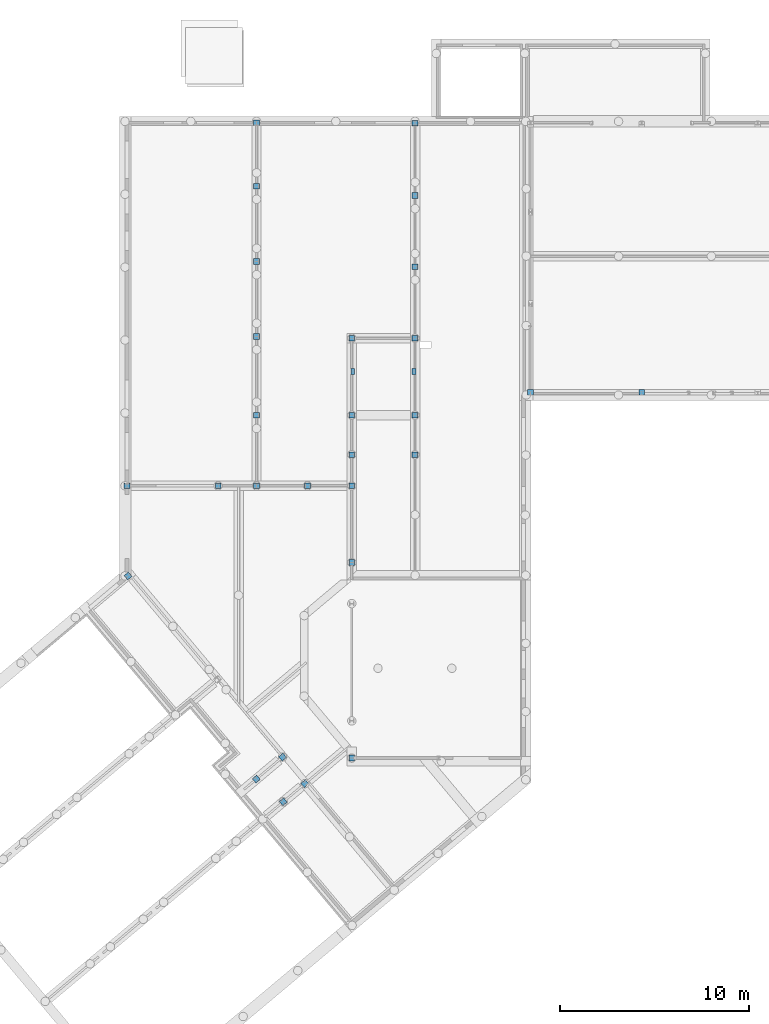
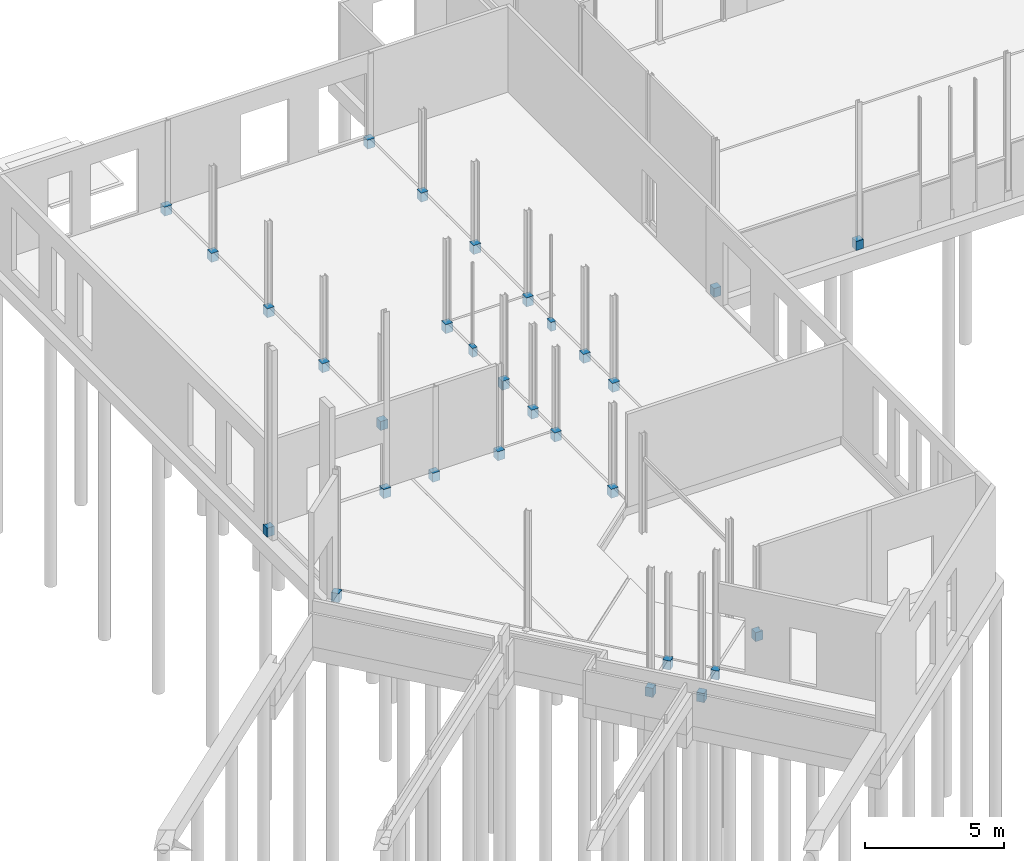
# One storey, part 9 of 18: 30 columns.
"""IFC2X3 building model written with IfcOpenShell, lengths in millimetres."""

from ifc_helpers import new_model, entity, si_unit, converted_unit, derived_unit, direction, frame, frame_2d, origin, origin_2d_with_axis, place, context, subcontext, project, spatial, polyline, rectangle, outline, extrude, source, transform, mapped, material, type_object, type_shapes, element, save


model = new_model("IFC2X3")

# Units and contexts
model_context = context("Model", 3, precision=0.01, world=origin(), true_north=direction((6.12303176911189e-17, 1.0)))
body_context = subcontext(model_context, "Body", "Model", "MODEL_VIEW")
ifc_project = project(units=[si_unit("LENGTHUNIT", "METRE", prefix="MILLI"), si_unit("AREAUNIT", "SQUARE_METRE"), si_unit("VOLUMEUNIT", "CUBIC_METRE"), converted_unit("PLANEANGLEUNIT", "DEGREE", entity("IfcRatioMeasure", 0.0174532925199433), si_unit("PLANEANGLEUNIT", "RADIAN"), dimensions=[0, 0, 0, 0, 0, 0, 0]), si_unit("MASSUNIT", "GRAM", prefix="KILO"), derived_unit("MASSDENSITYUNIT", [(si_unit("MASSUNIT", "GRAM", prefix="KILO"), 1), (si_unit("LENGTHUNIT", "METRE"), -3)]), derived_unit("MOMENTOFINERTIAUNIT", [(si_unit("LENGTHUNIT", "METRE"), 4)]), si_unit("TIMEUNIT", "SECOND"), si_unit("FREQUENCYUNIT", "HERTZ"), si_unit("THERMODYNAMICTEMPERATUREUNIT", "DEGREE_CELSIUS"), derived_unit("THERMALTRANSMITTANCEUNIT", [(si_unit("MASSUNIT", "GRAM", prefix="KILO"), 1), (si_unit("THERMODYNAMICTEMPERATUREUNIT", "KELVIN"), -1), (si_unit("TIMEUNIT", "SECOND"), -3)]), derived_unit("VOLUMETRICFLOWRATEUNIT", [(si_unit("LENGTHUNIT", "METRE"), 3), (si_unit("TIMEUNIT", "SECOND"), -1)]), si_unit("ELECTRICCURRENTUNIT", "AMPERE"), si_unit("ELECTRICVOLTAGEUNIT", "VOLT"), si_unit("POWERUNIT", "WATT"), si_unit("FORCEUNIT", "NEWTON", prefix="KILO"), si_unit("ILLUMINANCEUNIT", "LUX"), si_unit("LUMINOUSFLUXUNIT", "LUMEN"), si_unit("LUMINOUSINTENSITYUNIT", "CANDELA"), derived_unit("USERDEFINED", [(si_unit("MASSUNIT", "GRAM", prefix="KILO"), -1), (si_unit("LENGTHUNIT", "METRE"), -2), (si_unit("TIMEUNIT", "SECOND"), 3), (si_unit("LUMINOUSFLUXUNIT", "LUMEN"), 1)]), derived_unit("LINEARVELOCITYUNIT", [(si_unit("LENGTHUNIT", "METRE"), 1), (si_unit("TIMEUNIT", "SECOND"), -1)]), si_unit("PRESSUREUNIT", "PASCAL"), derived_unit("USERDEFINED", [(si_unit("LENGTHUNIT", "METRE"), -2), (si_unit("MASSUNIT", "GRAM", prefix="KILO"), 1), (si_unit("TIMEUNIT", "SECOND"), -2)]), derived_unit("LINEARFORCEUNIT", [(si_unit("MASSUNIT", "GRAM", prefix="KILO"), 1), (si_unit("LENGTHUNIT", "METRE"), 1), (si_unit("TIMEUNIT", "SECOND"), -2), (si_unit("LENGTHUNIT", "METRE"), -1)]), derived_unit("PLANARFORCEUNIT", [(si_unit("MASSUNIT", "GRAM", prefix="KILO"), 1), (si_unit("LENGTHUNIT", "METRE"), 1), (si_unit("TIMEUNIT", "SECOND"), -2), (si_unit("LENGTHUNIT", "METRE"), -2)])], contexts=[model_context])

# Site, building, storey
site_placement = place(None, origin())
site = spatial("IfcSite", under=ifc_project, at=site_placement, Name="Default", CompositionType="ELEMENT")
building_placement = place(site_placement, origin())
building = spatial("IfcBuilding", under=site, at=building_placement, CompositionType="ELEMENT")
storey_placement = place(building_placement, frame((0.0, 0.0, -1085.0)))
storey = spatial("IfcBuildingStorey", under=building, at=storey_placement, Name="-00 fundatie", CompositionType="ELEMENT", Elevation=-1085.0)

# Columns
ifc_material_1 = material(Name="f2_beton")
column_type_1 = type_object("IfcColumnType", Name="BERSnl_28_SCO_TLB_kolom vierkant beton_gen_ISR:300x300", PredefinedType="COLUMN", material=ifc_material_1)
shared_shape_1 = source(origin(), body_context, "Body", "SweptSolid", [
    extrude(rectangle(XDim=300.000000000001, YDim=300.000000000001, at=origin_2d_with_axis()), frame((20569.4349765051, 35415.9488747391, -485.0), z_axis=(0.0, 0.0, 1.0), x_axis=(0.0, -1.0, 0.0)), (0.0, 0.0, 1.0), 395.0),
])
type_shapes(column_type_1, [shared_shape_1])
column_1_placement = place(storey_placement, frame((0.0, 0.0, 1085.0)))
element("IfcColumn", 1, at=column_1_placement, inside=storey, type_object=column_type_1, Name="BERSnl_28_SCO_TLB_kolom vierkant beton_gen_ISR:300x300", ObjectType="BERSnl_28_SCO_TLB_kolom vierkant beton_gen_ISR:300x300", context=body_context, shape_type="MappedRepresentation", body=[
    mapped(shared_shape_1, transform((0.0, 0.0, 0.0), scale=1.0)),
])
column_type_2 = type_object("IfcColumnType", Name="BERSnl_28_SCO_TLB_kolom vierkant beton_gen_ISR:300x300", PredefinedType="COLUMN", material=ifc_material_1)
shared_shape_2 = source(origin(), body_context, "Body", "SweptSolid", [
    extrude(rectangle(XDim=300.000000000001, YDim=300.000000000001, at=origin_2d_with_axis()), frame((20569.4349765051, 32067.2966282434, -485.0), z_axis=(0.0, 0.0, 1.0), x_axis=(0.0, -1.0, 0.0)), (0.0, 0.0, 1.0), 395.0),
])
type_shapes(column_type_2, [shared_shape_2])
column_2_placement = place(storey_placement, frame((0.0, 0.0, 1085.0)))
element("IfcColumn", 2, at=column_2_placement, inside=storey, type_object=column_type_2, Name="BERSnl_28_SCO_TLB_kolom vierkant beton_gen_ISR:300x300", ObjectType="BERSnl_28_SCO_TLB_kolom vierkant beton_gen_ISR:300x300", context=body_context, shape_type="MappedRepresentation", body=[
    mapped(shared_shape_2, transform((0.0, 0.0, 0.0), scale=1.0)),
])
column_type_3 = type_object("IfcColumnType", Name="BERSnl_28_SCO_TLB_kolom vierkant beton_gen_ISR:300x300", PredefinedType="COLUMN", material=ifc_material_1)
shared_shape_3 = source(origin(), body_context, "Body", "SweptSolid", [
    extrude(rectangle(XDim=300.000000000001, YDim=300.000000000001, at=origin_2d_with_axis()), frame((20569.4349765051, 28067.2966282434, -485.0), z_axis=(0.0, 0.0, 1.0), x_axis=(0.0, -1.0, 0.0)), (0.0, 0.0, 1.0), 395.0),
])
type_shapes(column_type_3, [shared_shape_3])
column_3_placement = place(storey_placement, frame((0.0, 0.0, 1085.0)))
element("IfcColumn", 3, at=column_3_placement, inside=storey, type_object=column_type_3, Name="BERSnl_28_SCO_TLB_kolom vierkant beton_gen_ISR:300x300", ObjectType="BERSnl_28_SCO_TLB_kolom vierkant beton_gen_ISR:300x300", context=body_context, shape_type="MappedRepresentation", body=[
    mapped(shared_shape_3, transform((0.0, 0.0, 0.0), scale=1.0)),
])
column_type_4 = type_object("IfcColumnType", Name="BERSnl_28_SCO_TLB_kolom vierkant beton_gen_ISR:300x300", PredefinedType="COLUMN", material=ifc_material_1)
shared_shape_4 = source(origin(), body_context, "Body", "SweptSolid", [
    extrude(rectangle(XDim=300.000000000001, YDim=300.000000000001, at=origin_2d_with_axis()), frame((20569.4349765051, 24097.2966282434, -485.0), z_axis=(0.0, 0.0, 1.0), x_axis=(0.0, -1.0, 0.0)), (0.0, 0.0, 1.0), 395.0),
])
type_shapes(column_type_4, [shared_shape_4])
column_4_placement = place(storey_placement, frame((0.0, 0.0, 1085.0)))
element("IfcColumn", 4, at=column_4_placement, inside=storey, type_object=column_type_4, Name="BERSnl_28_SCO_TLB_kolom vierkant beton_gen_ISR:300x300", ObjectType="BERSnl_28_SCO_TLB_kolom vierkant beton_gen_ISR:300x300", context=body_context, shape_type="MappedRepresentation", body=[
    mapped(shared_shape_4, transform((0.0, 0.0, 0.0), scale=1.0)),
])
column_type_5 = type_object("IfcColumnType", Name="BERSnl_28_SCO_TLB_kolom vierkant beton_gen_ISR:300x300", PredefinedType="COLUMN", material=ifc_material_1)
shared_shape_5 = source(origin(), body_context, "Body", "SweptSolid", [
    extrude(rectangle(XDim=300.000000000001, YDim=300.000000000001, at=origin_2d_with_axis()), frame((20569.4349765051, 19921.8399254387, -485.0), z_axis=(0.0, 0.0, 1.0), x_axis=(0.0, -1.0, 0.0)), (0.0, 0.0, 1.0), 395.0),
])
type_shapes(column_type_5, [shared_shape_5])
column_5_placement = place(storey_placement, frame((0.0, 0.0, 1085.0)))
element("IfcColumn", 5, at=column_5_placement, inside=storey, type_object=column_type_5, Name="BERSnl_28_SCO_TLB_kolom vierkant beton_gen_ISR:300x300", ObjectType="BERSnl_28_SCO_TLB_kolom vierkant beton_gen_ISR:300x300", context=body_context, shape_type="MappedRepresentation", body=[
    mapped(shared_shape_5, transform((0.0, 0.0, 0.0), scale=1.0)),
])
column_type_6 = type_object("IfcColumnType", Name="BERSnl_28_SCO_TLB_kolom vierkant beton_gen_ISR:300x300", PredefinedType="COLUMN", material=ifc_material_1)
shared_shape_6 = source(origin(), body_context, "Body", "SweptSolid", [
    extrude(rectangle(XDim=299.999999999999, YDim=300.000000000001, at=origin_2d_with_axis()), frame((20569.4349765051, 16182.2966282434, -485.0), z_axis=(0.0, 0.0, 1.0), x_axis=(0.0, -1.0, 0.0)), (0.0, 0.0, 1.0), 395.0),
])
type_shapes(column_type_6, [shared_shape_6])
column_6_placement = place(storey_placement, frame((0.0, 0.0, 1085.0)))
element("IfcColumn", 6, at=column_6_placement, inside=storey, type_object=column_type_6, Name="BERSnl_28_SCO_TLB_kolom vierkant beton_gen_ISR:300x300", ObjectType="BERSnl_28_SCO_TLB_kolom vierkant beton_gen_ISR:300x300", context=body_context, shape_type="MappedRepresentation", body=[
    mapped(shared_shape_6, transform((0.0, 0.0, 0.0), scale=1.0)),
])
column_type_7 = type_object("IfcColumnType", Name="BERSnl_28_SCO_TLB_kolom vierkant beton_gen_ISR:300x300", PredefinedType="COLUMN", material=ifc_material_1)
shared_shape_7 = source(origin(), body_context, "Body", "SweptSolid", [
    extrude(outline(polyline([(-86.250000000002, -148.500000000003), (213.749999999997, -148.500000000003), (213.749999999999, 151.499999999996), (-86.2499999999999, 151.499999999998), (-86.250000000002, 105.500000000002), (-41.2499999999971, 105.500000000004), (-41.2499999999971, -108.499999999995), (-86.2499999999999, -108.499999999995), (-86.250000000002, -148.500000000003)])), frame((13703.9349765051, 16246.0466282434, -485.0), z_axis=(0.0, 0.0, 1.0), x_axis=(0.0, -1.0, 0.0)), (0.0, 0.0, 1.0), 395.0),
])
type_shapes(column_type_7, [shared_shape_7])
column_7_placement = place(storey_placement, frame((0.0, 0.0, 1085.0)))
element("IfcColumn", 7, at=column_7_placement, inside=storey, type_object=column_type_7, Name="BERSnl_28_SCO_TLB_kolom vierkant beton_gen_ISR:300x300", ObjectType="BERSnl_28_SCO_TLB_kolom vierkant beton_gen_ISR:300x300", context=body_context, shape_type="MappedRepresentation", body=[
    mapped(shared_shape_7, transform((0.0, 0.0, 0.0), scale=1.0)),
])
column_type_8 = type_object("IfcColumnType", Name="BERSnl_28_SCO_TLB_kolom vierkant beton_gen_ISR:300x300", PredefinedType="COLUMN", material=ifc_material_1)
shared_shape_8 = source(origin(), body_context, "Body", "SweptSolid", [
    extrude(rectangle(XDim=300.000000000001, YDim=300.000000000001, at=origin_2d_with_axis()), frame((28969.4349765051, 35402.2966282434, -485.0), z_axis=(0.0, 0.0, 1.0), x_axis=(0.0, -1.0, 0.0)), (0.0, 0.0, 1.0), 395.0),
])
type_shapes(column_type_8, [shared_shape_8])
column_8_placement = place(storey_placement, frame((0.0, 0.0, 1085.0)))
element("IfcColumn", 8, at=column_8_placement, inside=storey, type_object=column_type_8, Name="BERSnl_28_SCO_TLB_kolom vierkant beton_gen_ISR:300x300", ObjectType="BERSnl_28_SCO_TLB_kolom vierkant beton_gen_ISR:300x300", context=body_context, shape_type="MappedRepresentation", body=[
    mapped(shared_shape_8, transform((0.0, 0.0, 0.0), scale=1.0)),
])
column_type_9 = type_object("IfcColumnType", Name="BERSnl_28_SCO_TLB_kolom vierkant beton_gen_ISR:300x300", PredefinedType="COLUMN", material=ifc_material_1)
shared_shape_9 = source(origin(), body_context, "Body", "SweptSolid", [
    extrude(rectangle(XDim=300.000000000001, YDim=300.000000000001, at=origin_2d_with_axis()), frame((28969.4349765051, 31572.2966282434, -485.0), z_axis=(0.0, 0.0, 1.0), x_axis=(0.0, -1.0, 0.0)), (0.0, 0.0, 1.0), 395.0),
])
type_shapes(column_type_9, [shared_shape_9])
column_9_placement = place(storey_placement, frame((0.0, 0.0, 1085.0)))
element("IfcColumn", 9, at=column_9_placement, inside=storey, type_object=column_type_9, Name="BERSnl_28_SCO_TLB_kolom vierkant beton_gen_ISR:300x300", ObjectType="BERSnl_28_SCO_TLB_kolom vierkant beton_gen_ISR:300x300", context=body_context, shape_type="MappedRepresentation", body=[
    mapped(shared_shape_9, transform((0.0, 0.0, 0.0), scale=1.0)),
])
column_type_10 = type_object("IfcColumnType", Name="BERSnl_28_SCO_TLB_kolom vierkant beton_gen_ISR:300x300", PredefinedType="COLUMN", material=ifc_material_1)
shared_shape_10 = source(origin(), body_context, "Body", "SweptSolid", [
    extrude(rectangle(XDim=300.000000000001, YDim=300.000000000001, at=origin_2d_with_axis()), frame((28969.4349765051, 27792.2966282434, -485.0), z_axis=(0.0, 0.0, 1.0), x_axis=(0.0, -1.0, 0.0)), (0.0, 0.0, 1.0), 395.0),
])
type_shapes(column_type_10, [shared_shape_10])
column_10_placement = place(storey_placement, frame((0.0, 0.0, 1085.0)))
element("IfcColumn", 10, at=column_10_placement, inside=storey, type_object=column_type_10, Name="BERSnl_28_SCO_TLB_kolom vierkant beton_gen_ISR:300x300", ObjectType="BERSnl_28_SCO_TLB_kolom vierkant beton_gen_ISR:300x300", context=body_context, shape_type="MappedRepresentation", body=[
    mapped(shared_shape_10, transform((0.0, 0.0, 0.0), scale=1.0)),
])
column_type_11 = type_object("IfcColumnType", Name="BERSnl_28_SCO_TLB_kolom vierkant beton_gen_ISR:300x300", PredefinedType="COLUMN", material=ifc_material_1)
shared_shape_11 = source(origin(), body_context, "Body", "SweptSolid", [
    extrude(rectangle(XDim=300.000000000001, YDim=300.000000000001, at=origin_2d_with_axis()), frame((28969.4349765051, 24002.2966282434, -485.0), z_axis=(0.0, 0.0, 1.0), x_axis=(0.0, -1.0, 0.0)), (0.0, 0.0, 1.0), 395.0),
])
type_shapes(column_type_11, [shared_shape_11])
column_11_placement = place(storey_placement, frame((0.0, 0.0, 1085.0)))
element("IfcColumn", 11, at=column_11_placement, inside=storey, type_object=column_type_11, Name="BERSnl_28_SCO_TLB_kolom vierkant beton_gen_ISR:300x300", ObjectType="BERSnl_28_SCO_TLB_kolom vierkant beton_gen_ISR:300x300", context=body_context, shape_type="MappedRepresentation", body=[
    mapped(shared_shape_11, transform((0.0, 0.0, 0.0), scale=1.0)),
])
column_type_12 = type_object("IfcColumnType", Name="BERSnl_28_SCO_TLB_kolom vierkant beton_gen_ISR:300x300", PredefinedType="COLUMN", material=ifc_material_1)
shared_shape_12 = source(origin(), body_context, "Body", "SweptSolid", [
    extrude(rectangle(XDim=300.000000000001, YDim=300.000000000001, at=origin_2d_with_axis()), frame((28969.4349765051, 19922.2966282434, -485.0), z_axis=(0.0, 0.0, 1.0), x_axis=(0.0, -1.0, 0.0)), (0.0, 0.0, 1.0), 395.0),
])
type_shapes(column_type_12, [shared_shape_12])
column_12_placement = place(storey_placement, frame((0.0, 0.0, 1085.0)))
element("IfcColumn", 12, at=column_12_placement, inside=storey, type_object=column_type_12, Name="BERSnl_28_SCO_TLB_kolom vierkant beton_gen_ISR:300x300", ObjectType="BERSnl_28_SCO_TLB_kolom vierkant beton_gen_ISR:300x300", context=body_context, shape_type="MappedRepresentation", body=[
    mapped(shared_shape_12, transform((0.0, 0.0, 0.0), scale=1.0)),
])
column_type_13 = type_object("IfcColumnType", Name="BERSnl_28_SCO_TLB_kolom vierkant beton_gen_ISR:300x300", PredefinedType="COLUMN", material=ifc_material_1)
shared_shape_13 = source(origin(), body_context, "Body", "SweptSolid", [
    extrude(rectangle(XDim=299.999999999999, YDim=300.000000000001, at=origin_2d_with_axis()), frame((28969.4349765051, 17833.5697997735, -485.0), z_axis=(0.0, 0.0, 1.0), x_axis=(0.0, -1.0, 0.0)), (0.0, 0.0, 1.0), 395.0),
])
type_shapes(column_type_13, [shared_shape_13])
column_13_placement = place(storey_placement, frame((0.0, 0.0, 1085.0)))
element("IfcColumn", 13, at=column_13_placement, inside=storey, type_object=column_type_13, Name="BERSnl_28_SCO_TLB_kolom vierkant beton_gen_ISR:300x300", ObjectType="BERSnl_28_SCO_TLB_kolom vierkant beton_gen_ISR:300x300", context=body_context, shape_type="MappedRepresentation", body=[
    mapped(shared_shape_13, transform((0.0, 0.0, 0.0), scale=1.0)),
])
column_type_14 = type_object("IfcColumnType", Name="BERSnl_28_SCO_TLB_kolom vierkant beton_gen_ISR:300x300", PredefinedType="COLUMN", material=ifc_material_1)
shared_shape_14 = source(origin(), body_context, "Body", "SweptSolid", [
    extrude(rectangle(XDim=300.000000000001, YDim=300.000000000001, at=origin_2d_with_axis()), frame((25615.4349765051, 24002.2966282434, -485.0), z_axis=(0.0, 0.0, 1.0), x_axis=(0.0, -1.0, 0.0)), (0.0, 0.0, 1.0), 395.0),
])
type_shapes(column_type_14, [shared_shape_14])
column_14_placement = place(storey_placement, frame((0.0, 0.0, 1085.0)))
element("IfcColumn", 14, at=column_14_placement, inside=storey, type_object=column_type_14, Name="BERSnl_28_SCO_TLB_kolom vierkant beton_gen_ISR:300x300", ObjectType="BERSnl_28_SCO_TLB_kolom vierkant beton_gen_ISR:300x300", context=body_context, shape_type="MappedRepresentation", body=[
    mapped(shared_shape_14, transform((0.0, 0.0, 0.0), scale=1.0)),
])
column_type_15 = type_object("IfcColumnType", Name="BERSnl_28_SCO_TLB_kolom vierkant beton_gen_ISR:300x300", PredefinedType="COLUMN", material=ifc_material_1)
shared_shape_15 = source(origin(), body_context, "Body", "SweptSolid", [
    extrude(rectangle(XDim=300.000000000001, YDim=300.000000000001, at=origin_2d_with_axis()), frame((25615.4349765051, 19922.2966282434, -485.0), z_axis=(0.0, 0.0, 1.0), x_axis=(0.0, -1.0, 0.0)), (0.0, 0.0, 1.0), 395.0),
])
type_shapes(column_type_15, [shared_shape_15])
column_15_placement = place(storey_placement, frame((0.0, 0.0, 1085.0)))
element("IfcColumn", 15, at=column_15_placement, inside=storey, type_object=column_type_15, Name="BERSnl_28_SCO_TLB_kolom vierkant beton_gen_ISR:300x300", ObjectType="BERSnl_28_SCO_TLB_kolom vierkant beton_gen_ISR:300x300", context=body_context, shape_type="MappedRepresentation", body=[
    mapped(shared_shape_15, transform((0.0, 0.0, 0.0), scale=1.0)),
])
column_type_16 = type_object("IfcColumnType", Name="BERSnl_28_SCO_TLB_kolom vierkant beton_gen_ISR:300x300", PredefinedType="COLUMN", material=ifc_material_1)
shared_shape_16 = source(origin(), body_context, "Body", "SweptSolid", [
    extrude(rectangle(XDim=299.999999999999, YDim=300.000000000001, at=origin_2d_with_axis()), frame((25615.4349765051, 17833.5697997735, -485.0), z_axis=(0.0, 0.0, 1.0), x_axis=(0.0, -1.0, 0.0)), (0.0, 0.0, 1.0), 395.0),
])
type_shapes(column_type_16, [shared_shape_16])
column_16_placement = place(storey_placement, frame((0.0, 0.0, 1085.0)))
element("IfcColumn", 16, at=column_16_placement, inside=storey, type_object=column_type_16, Name="BERSnl_28_SCO_TLB_kolom vierkant beton_gen_ISR:300x300", ObjectType="BERSnl_28_SCO_TLB_kolom vierkant beton_gen_ISR:300x300", context=body_context, shape_type="MappedRepresentation", body=[
    mapped(shared_shape_16, transform((0.0, 0.0, 0.0), scale=1.0)),
])
column_type_17 = type_object("IfcColumnType", Name="BERSnl_28_SCO_TLB_kolom vierkant beton_gen_ISR:300x300", PredefinedType="COLUMN", material=ifc_material_1)
shared_shape_17 = source(origin(), body_context, "Body", "SweptSolid", [
    extrude(rectangle(XDim=299.999999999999, YDim=300.000000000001, at=origin_2d_with_axis()), frame((25615.4349765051, 16182.2966282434, -485.0), z_axis=(0.0, 0.0, 1.0), x_axis=(0.0, -1.0, 0.0)), (0.0, 0.0, 1.0), 395.0),
])
type_shapes(column_type_17, [shared_shape_17])
column_17_placement = place(storey_placement, frame((0.0, 0.0, 1085.0)))
element("IfcColumn", 17, at=column_17_placement, inside=storey, type_object=column_type_17, Name="BERSnl_28_SCO_TLB_kolom vierkant beton_gen_ISR:300x300", ObjectType="BERSnl_28_SCO_TLB_kolom vierkant beton_gen_ISR:300x300", context=body_context, shape_type="MappedRepresentation", body=[
    mapped(shared_shape_17, transform((0.0, 0.0, 0.0), scale=1.0)),
])
column_type_18 = type_object("IfcColumnType", Name="BERSnl_28_SCO_TLB_kolom vierkant beton_gen_ISR:300x300", PredefinedType="COLUMN", material=ifc_material_1)
shared_shape_18 = source(origin(), body_context, "Body", "SweptSolid", [
    extrude(rectangle(XDim=299.999999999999, YDim=300.000000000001, at=origin_2d_with_axis()), frame((23265.4349765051, 16182.2966282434, -485.0), z_axis=(0.0, 0.0, 1.0), x_axis=(0.0, -1.0, 0.0)), (0.0, 0.0, 1.0), 395.0),
])
type_shapes(column_type_18, [shared_shape_18])
column_18_placement = place(storey_placement, frame((0.0, 0.0, 1085.0)))
element("IfcColumn", 18, at=column_18_placement, inside=storey, type_object=column_type_18, Name="BERSnl_28_SCO_TLB_kolom vierkant beton_gen_ISR:300x300", ObjectType="BERSnl_28_SCO_TLB_kolom vierkant beton_gen_ISR:300x300", context=body_context, shape_type="MappedRepresentation", body=[
    mapped(shared_shape_18, transform((0.0, 0.0, 0.0), scale=1.0)),
])
ifc_material_2 = material(Name="<Unnamed>")
column_type_19 = type_object("IfcColumnType", Name="BERSnl_28_SCO_TLB_kolom vierkant beton_gen_ISR:300x200", PredefinedType="COLUMN", material=ifc_material_2)
shared_shape_19 = source(origin(), body_context, "Body", "SweptSolid", [
    extrude(rectangle(XDim=300.000000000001, YDim=199.999999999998, at=origin_2d_with_axis()), frame((25665.4349765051, 22237.2966282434, -485.0), z_axis=(0.0, 0.0, 1.0), x_axis=(0.0, -1.0, 0.0)), (0.0, 0.0, 1.0), 395.0),
])
type_shapes(column_type_19, [shared_shape_19])
column_19_placement = place(storey_placement, frame((0.0, 0.0, 1085.0)))
element("IfcColumn", 19, at=column_19_placement, inside=storey, type_object=column_type_19, Name="BERSnl_28_SCO_TLB_kolom vierkant beton_gen_ISR:300x200", ObjectType="BERSnl_28_SCO_TLB_kolom vierkant beton_gen_ISR:300x200", context=body_context, shape_type="MappedRepresentation", body=[
    mapped(shared_shape_19, transform((0.0, 0.0, 0.0), scale=1.0)),
])
column_type_20 = type_object("IfcColumnType", Name="BERSnl_28_SCO_TLB_kolom vierkant beton_gen_ISR:300x200", PredefinedType="COLUMN", material=ifc_material_2)
shared_shape_20 = source(origin(), body_context, "Body", "SweptSolid", [
    extrude(rectangle(XDim=300.000000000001, YDim=199.999999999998, at=origin_2d_with_axis()), frame((28919.4349765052, 22237.2966282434, -485.0), z_axis=(0.0, 0.0, 1.0), x_axis=(0.0, -1.0, 0.0)), (0.0, 0.0, 1.0), 395.0),
])
type_shapes(column_type_20, [shared_shape_20])
column_20_placement = place(storey_placement, frame((0.0, 0.0, 1085.0)))
element("IfcColumn", 20, at=column_20_placement, inside=storey, type_object=column_type_20, Name="BERSnl_28_SCO_TLB_kolom vierkant beton_gen_ISR:300x200", ObjectType="BERSnl_28_SCO_TLB_kolom vierkant beton_gen_ISR:300x200", context=body_context, shape_type="MappedRepresentation", body=[
    mapped(shared_shape_20, transform((0.0, 0.0, 0.0), scale=1.0)),
])
column_type_21 = type_object("IfcColumnType", Name="BERSnl_28_SCO_TLB_kolom vierkant beton_gen_ISR:300x300", PredefinedType="COLUMN", material=ifc_material_1)
shared_shape_21 = source(origin(), body_context, "Body", "SweptSolid", [
    extrude(rectangle(XDim=300.000000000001, YDim=300.000000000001, at=origin_2d_with_axis()), frame((40983.4270571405, 21146.2966282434, -485.0), z_axis=(0.0, 0.0, 1.0), x_axis=(0.0, -1.0, 0.0)), (0.0, 0.0, 1.0), 395.0),
])
type_shapes(column_type_21, [shared_shape_21])
column_21_placement = place(storey_placement, frame((0.0, 0.0, 1085.0)))
element("IfcColumn", 21, at=column_21_placement, inside=storey, type_object=column_type_21, Name="BERSnl_28_SCO_TLB_kolom vierkant beton_gen_ISR:300x300", ObjectType="BERSnl_28_SCO_TLB_kolom vierkant beton_gen_ISR:300x300", context=body_context, shape_type="MappedRepresentation", body=[
    mapped(shared_shape_21, transform((0.0, 0.0, 0.0), scale=1.0)),
])
column_type_22 = type_object("IfcColumnType", Name="BERSnl_28_SCO_TLB_kolom vierkant beton_gen_ISR:300x300", PredefinedType="COLUMN", material=ifc_material_1)
shared_shape_22 = source(origin(), body_context, "Body", "SweptSolid", [
    extrude(rectangle(XDim=300.000000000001, YDim=300.000000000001, at=origin_2d_with_axis()), frame((35089.4270571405, 21146.2966282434, -485.0), z_axis=(0.0, 0.0, 1.0), x_axis=(0.0, -1.0, 0.0)), (0.0, 0.0, 1.0), 395.0),
])
type_shapes(column_type_22, [shared_shape_22])
column_22_placement = place(storey_placement, frame((0.0, 0.0, 1085.0)))
element("IfcColumn", 22, at=column_22_placement, inside=storey, type_object=column_type_22, Name="BERSnl_28_SCO_TLB_kolom vierkant beton_gen_ISR:300x300", ObjectType="BERSnl_28_SCO_TLB_kolom vierkant beton_gen_ISR:300x300", context=body_context, shape_type="MappedRepresentation", body=[
    mapped(shared_shape_22, transform((0.0, 0.0, 0.0), scale=1.0)),
])
column_type_23 = type_object("IfcColumnType", Name="BERSnl_28_SCO_TLB_kolom vierkant beton_gen_ISR:300x300", PredefinedType="COLUMN", material=ifc_material_1)
shared_shape_23 = source(origin(), body_context, "Body", "SweptSolid", [
    extrude(rectangle(XDim=299.999999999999, YDim=300.000000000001, at=origin_2d_with_axis()), frame((25615.4349765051, 12114.0621216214, -485.0), z_axis=(0.0, 0.0, 1.0), x_axis=(0.0, -1.0, 0.0)), (0.0, 0.0, 1.0), 395.0),
])
type_shapes(column_type_23, [shared_shape_23])
column_23_placement = place(storey_placement, frame((0.0, 0.0, 1085.0)))
element("IfcColumn", 23, at=column_23_placement, inside=storey, type_object=column_type_23, Name="BERSnl_28_SCO_TLB_kolom vierkant beton_gen_ISR:300x300", ObjectType="BERSnl_28_SCO_TLB_kolom vierkant beton_gen_ISR:300x300", context=body_context, shape_type="MappedRepresentation", body=[
    mapped(shared_shape_23, transform((0.0, 0.0, 0.0), scale=1.0)),
])
column_type_24 = type_object("IfcColumnType", Name="BERSnl_28_SCO_TLB_kolom vierkant beton_gen_ISR:300x300", PredefinedType="COLUMN", material=ifc_material_1)
shared_shape_24 = source(origin(), body_context, "Body", "SweptSolid", [
    extrude(outline(polyline([(-150.0, -213.749999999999), (150.0, -213.749999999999), (150.0, 86.250000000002), (75.0, 86.250000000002), (75.0, 41.2500000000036), (-75.0, 41.2500000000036), (-75.0, 86.250000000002), (-150.0, 86.250000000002), (-150.0, -213.749999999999)])), frame((25679.1849765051, 1752.29662827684, -485.0), z_axis=(0.0, 0.0, 1.0), x_axis=(0.0, -1.0, 0.0)), (0.0, 0.0, 1.0), 395.0),
])
type_shapes(column_type_24, [shared_shape_24])
column_24_placement = place(storey_placement, frame((0.0, 0.0, 1085.0)))
element("IfcColumn", 24, at=column_24_placement, inside=storey, type_object=column_type_24, Name="BERSnl_28_SCO_TLB_kolom vierkant beton_gen_ISR:300x300", ObjectType="BERSnl_28_SCO_TLB_kolom vierkant beton_gen_ISR:300x300", context=body_context, shape_type="MappedRepresentation", body=[
    mapped(shared_shape_24, transform((0.0, 0.0, 0.0), scale=1.0)),
])
column_type_25 = type_object("IfcColumnType", Name="BERSnl_28_SCO_TLB_kolom vierkant beton_gen_ISR:300x300", PredefinedType="COLUMN", material=ifc_material_2)
shared_shape_25 = source(origin(), body_context, "Body", "SweptSolid", [
    extrude(outline(polyline([(-69.9886234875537, -150.0), (184.994311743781, -150.0), (184.994311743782, 150.0), (-115.005688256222, 150.0), (-115.005688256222, 0.0), (-69.9886234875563, 0.0), (-69.9886234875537, -150.0)])), frame((23153.7015731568, 370.62885899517, -485.0), z_axis=(0.0, 0.0, 1.0), x_axis=(-0.642787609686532, 0.766044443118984, 0.0)), (0.0, 0.0, 1.0), 395.0),
])
type_shapes(column_type_25, [shared_shape_25])
column_25_placement = place(storey_placement, frame((0.0, 0.0, 1085.0)))
element("IfcColumn", 25, at=column_25_placement, inside=storey, type_object=column_type_25, Name="BERSnl_28_SCO_TLB_kolom vierkant beton_gen_ISR:300x300", ObjectType="BERSnl_28_SCO_TLB_kolom vierkant beton_gen_ISR:300x300", context=body_context, shape_type="MappedRepresentation", body=[
    mapped(shared_shape_25, transform((0.0, 0.0, 0.0), scale=1.0)),
])
column_type_26 = type_object("IfcColumnType", Name="BERSnl_28_SCO_TLB_kolom vierkant beton_gen_ISR:300x300", PredefinedType="COLUMN", material=ifc_material_2)
shared_shape_26 = source(origin(), body_context, "Body", "SweptSolid", [
    extrude(rectangle(XDim=300.000000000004, YDim=300.000000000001, at=origin_2d_with_axis()), frame((21983.3124069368, -565.76242907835, -485.0), z_axis=(0.0, 0.0, 1.0), x_axis=(-0.642787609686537, 0.76604444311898, 0.0)), (0.0, 0.0, 1.0), 395.0),
])
type_shapes(column_type_26, [shared_shape_26])
column_26_placement = place(storey_placement, frame((0.0, 0.0, 1085.0)))
element("IfcColumn", 26, at=column_26_placement, inside=storey, type_object=column_type_26, Name="BERSnl_28_SCO_TLB_kolom vierkant beton_gen_ISR:300x300", ObjectType="BERSnl_28_SCO_TLB_kolom vierkant beton_gen_ISR:300x300", context=body_context, shape_type="MappedRepresentation", body=[
    mapped(shared_shape_26, transform((0.0, 0.0, 0.0), scale=1.0)),
])
column_type_27 = type_object("IfcColumnType", Name="BERSnl_28_SCO_TLB_kolom vierkant beton_gen_ISR:300x300", PredefinedType="COLUMN", material=ifc_material_2)
shared_shape_27 = source(origin(), body_context, "Body", "SweptSolid", [
    extrude(rectangle(XDim=300.000000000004, YDim=300.000000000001, at=frame_2d((4.2632564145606e-14, -4.2632564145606e-14), x_axis=(1.0, 0.0))), frame((20556.0113736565, 635.906121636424, -485.0), z_axis=(0.0, 0.0, 1.0), x_axis=(-0.642787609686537, 0.76604444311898, 0.0)), (0.0, 0.0, 1.0), 395.0),
])
type_shapes(column_type_27, [shared_shape_27])
column_27_placement = place(storey_placement, frame((0.0, 0.0, 1085.0)))
element("IfcColumn", 27, at=column_27_placement, inside=storey, type_object=column_type_27, Name="BERSnl_28_SCO_TLB_kolom vierkant beton_gen_ISR:300x300", ObjectType="BERSnl_28_SCO_TLB_kolom vierkant beton_gen_ISR:300x300", context=body_context, shape_type="MappedRepresentation", body=[
    mapped(shared_shape_27, transform((0.0, 0.0, 0.0), scale=1.0)),
])
column_type_28 = type_object("IfcColumnType", Name="BERSnl_28_SCO_TLB_kolom vierkant beton_gen_ISR:300x300", PredefinedType="COLUMN", material=ifc_material_2)
shared_shape_28 = source(origin(), body_context, "Body", "SweptSolid", [
    extrude(rectangle(XDim=300.000000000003, YDim=300.000000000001, at=origin_2d_with_axis()), frame((21949.775005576, 1805.41267112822, -485.0), z_axis=(0.0, 0.0, 1.0), x_axis=(-0.642787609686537, 0.76604444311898, 0.0)), (0.0, 0.0, 1.0), 395.0),
])
type_shapes(column_type_28, [shared_shape_28])
column_28_placement = place(storey_placement, frame((0.0, 0.0, 1085.0)))
element("IfcColumn", 28, at=column_28_placement, inside=storey, type_object=column_type_28, Name="BERSnl_28_SCO_TLB_kolom vierkant beton_gen_ISR:300x300", ObjectType="BERSnl_28_SCO_TLB_kolom vierkant beton_gen_ISR:300x300", context=body_context, shape_type="MappedRepresentation", body=[
    mapped(shared_shape_28, transform((0.0, 0.0, 0.0), scale=1.0)),
])
column_type_29 = type_object("IfcColumnType", Name="BERSnl_28_SCO_TLB_kolom vierkant beton_gen_ISR:300x300", PredefinedType="COLUMN", material=ifc_material_2)
shared_shape_29 = source(origin(), body_context, "Body", "SweptSolid", [
    extrude(outline(polyline([(-70.4514360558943, -227.708056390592), (-65.316033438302, -227.708056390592), (161.483721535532, -37.4004656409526), (135.651627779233, -6.61497510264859), (135.306022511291, -6.90497235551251), (-2.25052596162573, 157.028538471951), (-1.90492069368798, 157.318535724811), (-31.3525613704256, 192.412867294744), (-261.165894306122, -0.423415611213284), (-70.4514360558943, -227.708056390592)])), frame((13709.90510826, 11383.5361138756, -485.0), z_axis=(0.0, 0.0, 1.0), x_axis=(-1.0, 0.0, 0.0)), (0.0, 0.0, 1.0), 395.0),
])
type_shapes(column_type_29, [shared_shape_29])
column_29_placement = place(storey_placement, frame((0.0, 0.0, 1085.0)))
element("IfcColumn", 29, at=column_29_placement, inside=storey, type_object=column_type_29, Name="BERSnl_28_SCO_TLB_kolom vierkant beton_gen_ISR:300x300", ObjectType="BERSnl_28_SCO_TLB_kolom vierkant beton_gen_ISR:300x300", context=body_context, shape_type="MappedRepresentation", body=[
    mapped(shared_shape_29, transform((0.0, 0.0, 0.0), scale=1.0)),
])
column_type_30 = type_object("IfcColumnType", Name="BERSnl_28_SCO_TLB_kolom vierkant beton_gen_ISR:300x300", PredefinedType="COLUMN", material=ifc_material_1)
shared_shape_30 = source(origin(), body_context, "Body", "SweptSolid", [
    extrude(rectangle(XDim=299.999999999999, YDim=299.999999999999, at=origin_2d_with_axis()), frame((18539.7538302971, 16182.2966282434, -485.0), z_axis=(0.0, 0.0, 1.0), x_axis=(0.0, -1.0, 0.0)), (0.0, 0.0, 1.0), 395.0),
])
type_shapes(column_type_30, [shared_shape_30])
column_30_placement = place(storey_placement, frame((0.0, 0.0, 1085.0)))
element("IfcColumn", 30, at=column_30_placement, inside=storey, type_object=column_type_30, Name="BERSnl_28_SCO_TLB_kolom vierkant beton_gen_ISR:300x300", ObjectType="BERSnl_28_SCO_TLB_kolom vierkant beton_gen_ISR:300x300", context=body_context, shape_type="MappedRepresentation", body=[
    mapped(shared_shape_30, transform((0.0, 0.0, 0.0), scale=1.0)),
])

save(model, "model.ifc")
